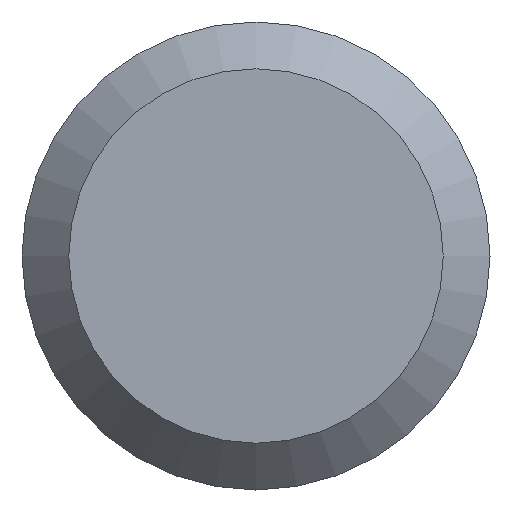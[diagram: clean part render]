
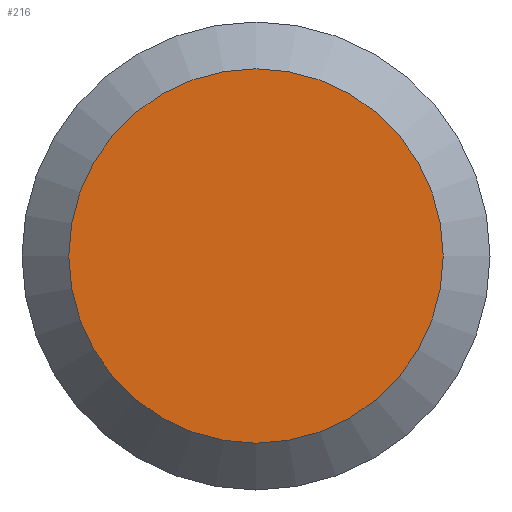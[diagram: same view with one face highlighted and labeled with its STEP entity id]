
A CAD part, left-side view. The second image highlights one B-rep face of the part: STEP entity #216.
In plain terms, the highlighted planar face has unit normal (-1, 0, 0).
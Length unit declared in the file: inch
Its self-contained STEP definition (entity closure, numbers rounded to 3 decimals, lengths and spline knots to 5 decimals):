
#74 = VERTEX_POINT ( 'NONE', #231 ) ;
#105 = ORIENTED_EDGE ( 'NONE', *, *, #143, .T. ) ;
#112 = DIRECTION ( 'NONE',  ( 1., 0., 0. ) ) ;
#118 = DIRECTION ( 'NONE',  ( 0., 0., -1. ) ) ;
#122 = DIRECTION ( 'NONE',  ( 0., 0., -1. ) ) ;
#124 = DIRECTION ( 'NONE',  ( -1., 0., 0. ) ) ;
#143 = EDGE_CURVE ( 'NONE', #74, #74, #148, .T. ) ;
#148 = CIRCLE ( 'NONE', #181, 0.0836 ) ;
#163 = CARTESIAN_POINT ( 'NONE',  ( 0., 0., 0. ) ) ;
#175 = EDGE_LOOP ( 'NONE', ( #105 ) ) ;
#181 = AXIS2_PLACEMENT_3D ( 'NONE', #163, #124, #122 ) ;
#203 = FACE_OUTER_BOUND ( 'NONE', #175, .T. ) ;
#209 = CARTESIAN_POINT ( 'NONE',  ( 0., 0.1045, 0. ) ) ;
#216 = ADVANCED_FACE ( 'NONE', ( #203 ), #222, .F. ) ;
#222 = PLANE ( 'NONE',  #227 ) ;
#227 = AXIS2_PLACEMENT_3D ( 'NONE', #209, #112, #118 ) ;
#231 = CARTESIAN_POINT ( 'NONE',  ( 0., 0., -0.0836 ) ) ;
